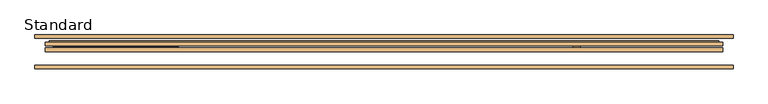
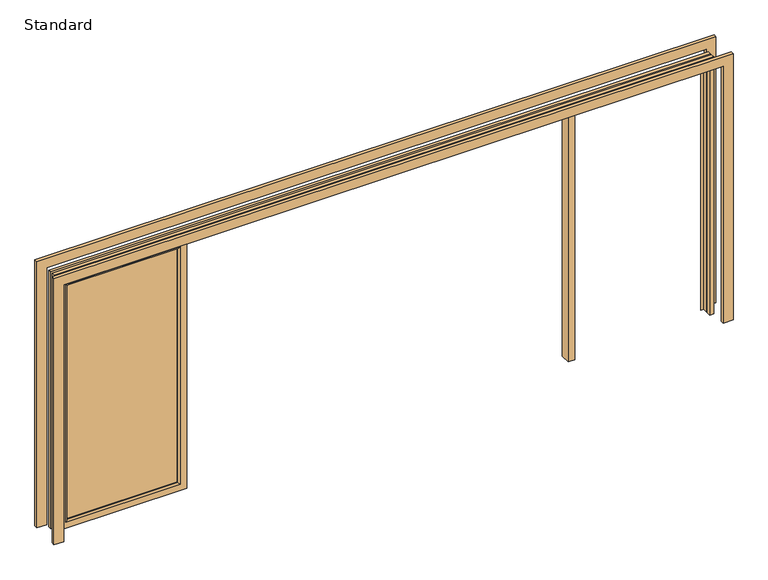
"""IFC4 building model written with IfcOpenShell, lengths in millimetres: door geometry, SMARTS_Visofold1000 : Standard."""

from ifc_helpers import new_model, si_unit, frame, origin, origin_with_axes, place, context, project, spatial, polyline, ellipse_curve, outline, extrude, faceted_brep, source, transform, mapped, element, save
from ifc_brep_helpers import plane_surface, cylinder_surface, advanced_brep


def standard_1215e9c2(model_context):
    return source(origin(), model_context, "Body", "SolidModel", [
        advanced_brep(
        [(-1556.5, 13.3, 60.5), (-1556.5, 13.3, 1939.5), (-1556.5, 17.4, 1939.5), (-1556.5, 17.4, 60.5), (-1496.0, 17.4, 0.0), (-1496.0, 17.4, 2000.0), (-1496.0, 0.0, 2000.0), (-1496.0, 0.0, 0.0), (-2399.5, 13.3, 1939.5), (-2399.5, 17.4, 1939.5), (-2460.0, 17.4, 2000.0), (-2460.0, 0.0, 2000.0), (-2399.5, 13.3, 60.5), (-2399.5, 17.4, 60.5), (-2460.0, 17.4, 0.0), (-2460.0, 0.0, 0.0), (-1543.2, 0.0, 1952.8), (-1543.2, 0.0, 47.2), (-2412.8, 0.0, 47.2), (-2412.8, 0.0, 1952.8), (-1513.8691481, 34.8, 17.8691481), (-1513.8691481, 34.8, 1982.1308519), (-1513.8691481, 17.4, 1982.1308519), (-1513.8691481, 17.4, 17.8691481), (-2442.1308519, 34.8, 1982.1308519), (-2442.1308519, 17.4, 1982.1308519), (-2442.1308519, 34.8, 17.8691481), (-2442.1308519, 17.4, 17.8691481), (-1541.0, 17.4, 45.0), (-1541.0, 17.4, 1955.0), (-1541.0, 34.8, 1955.0), (-1541.0, 34.8, 45.0), (-2415.0, 17.4, 1955.0), (-2415.0, 34.8, 1955.0), (-2415.0, 17.4, 45.0), (-2415.0, 34.8, 45.0)],
        [
            (0, 1),
            (1, 2),
            (2, 3),
            (3, 0),
            (4, 5),
            (5, 6),
            (6, 7),
            (7, 4),
            (1, 8),
            (8, 9),
            (9, 2),
            (5, 10),
            (10, 11),
            (11, 6),
            (8, 12),
            (12, 13),
            (13, 9),
            (10, 14),
            (14, 15),
            (15, 11),
            (12, 0),
            (3, 13),
            (15, 7),
            (16, 17),
            (17, 18),
            (18, 19),
            (19, 16),
            (14, 4),
            (16, 1, ellipse_curve(frame((-1543.2, 13.3, 1952.8), z_axis=(0.7071067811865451, 0.0, -0.70710678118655), x_axis=(-0.7071067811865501, 0.0, -0.7071067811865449)), 18.8090404, 13.3)),
            (0, 17, ellipse_curve(frame((-1543.2, 13.3, 47.2), z_axis=(0.7071067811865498, 0.0, 0.7071067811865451), x_axis=(0.7071067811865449, 0.0, -0.70710678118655)), 18.8090404, 13.3)),
            (19, 8, ellipse_curve(frame((-2412.8, 13.3, 1952.8), z_axis=(0.7071067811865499, 0.0, 0.707106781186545), x_axis=(0.7071067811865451, 0.0, -0.7071067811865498)), 18.8090404, 13.3)),
            (18, 12, ellipse_curve(frame((-2412.8, 13.3, 47.2), z_axis=(-0.7071067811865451, 0.0, 0.7071067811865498), x_axis=(0.7071067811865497, 0.0, 0.7071067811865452)), 18.8090404, 13.3)),
            (20, 21),
            (21, 22),
            (22, 23),
            (23, 20),
            (21, 24),
            (24, 25),
            (25, 22),
            (24, 26),
            (26, 27),
            (27, 25),
            (27, 23),
            (26, 20),
            (28, 29),
            (29, 30),
            (30, 31),
            (31, 28),
            (29, 32),
            (32, 33),
            (33, 30),
            (32, 34),
            (34, 35),
            (35, 33),
            (34, 28),
            (31, 35),
        ],
        [
            plane_surface(frame((-1556.5, 17.4, 60.5), z_axis=(-1.0, 0.0, 0.0), x_axis=(0.0, 0.0, 1.0))),
            plane_surface(frame((-1496.0, 0.0, 0.0), z_axis=(1.0, 0.0, 0.0), x_axis=(0.0, 0.0, 1.0))),
            plane_surface(frame((-1556.5, 17.4, 1939.5), z_axis=(0.0, 0.0, -1.0), x_axis=(-1.0, 0.0, 0.0))),
            plane_surface(frame((-1496.0, 0.0, 2000.0), z_axis=(0.0, 0.0, 1.0), x_axis=(-1.0, 0.0, 0.0))),
            plane_surface(frame((-2399.5, 17.4, 1939.5), z_axis=(1.0, 0.0, 0.0), x_axis=(0.0, 0.0, -1.0))),
            plane_surface(frame((-2460.0, 0.0, 2000.0), z_axis=(-1.0, 0.0, 0.0), x_axis=(0.0, 0.0, -1.0))),
            plane_surface(frame((-2399.5, 17.4, 60.5), z_axis=(0.0, 0.0, 1.0), x_axis=(1.0, 0.0, 0.0))),
            plane_surface(frame((-2412.8, 0.0, 47.2), z_axis=(0.0, -1.0, 0.0), x_axis=(1.0, 0.0, 0.0))),
            plane_surface(frame((-2460.0, 0.0, 0.0), z_axis=(0.0, 0.0, -1.0), x_axis=(1.0, 0.0, 0.0))),
            cylinder_surface(frame((-1543.2, 13.3, 0.0), z_axis=(0.0, 0.0, -1.0), x_axis=(0.0, 1.0, 0.0)), 13.3),
            cylinder_surface(frame((-1496.0, 13.3, 1952.8), z_axis=(1.0, 0.0, 0.0), x_axis=(0.0, 1.0, 0.0)), 13.3),
            cylinder_surface(frame((-2412.8, 13.3, 2000.0), z_axis=(0.0, 0.0, 1.0), x_axis=(0.0, 1.0, 0.0)), 13.3),
            cylinder_surface(frame((-2460.0, 13.3, 47.2), z_axis=(-1.0, 0.0, 0.0), x_axis=(0.0, 1.0, 0.0)), 13.3),
            plane_surface(frame((-1513.8691481, 17.4, 17.8691481), z_axis=(1.0, 0.0, 0.0), x_axis=(0.0, 0.0, 1.0))),
            plane_surface(frame((-1513.8691481, 17.4, 1982.1308519), z_axis=(0.0, 0.0, 1.0), x_axis=(-1.0, 0.0, 0.0))),
            plane_surface(frame((-2442.1308519, 17.4, 1982.1308519), z_axis=(-1.0, 0.0, 0.0), x_axis=(0.0, 0.0, -1.0))),
            plane_surface(frame((-2460.0, 17.4, 0.0), z_axis=(0.0, 1.0, 0.0), x_axis=(1.0, 0.0, 0.0))),
            plane_surface(frame((-2442.1308519, 17.4, 17.8691481), z_axis=(0.0, 0.0, -1.0), x_axis=(1.0, 0.0, 0.0))),
            plane_surface(frame((-1541.0, 34.8, 45.0), z_axis=(-1.0, 0.0, 0.0), x_axis=(0.0, 0.0, 1.0))),
            plane_surface(frame((-1541.0, 34.8, 1955.0), z_axis=(0.0, 0.0, -1.0), x_axis=(-1.0, 0.0, 0.0))),
            plane_surface(frame((-2415.0, 34.8, 1955.0), z_axis=(1.0, 0.0, 0.0), x_axis=(0.0, 0.0, -1.0))),
            plane_surface(frame((-2415.0, 34.8, 45.0), z_axis=(0.0, 0.0, 1.0), x_axis=(1.0, 0.0, 0.0))),
            plane_surface(frame((-2415.0, 17.4, 45.0), z_axis=(0.0, 1.0, 0.0), x_axis=(1.0, 0.0, 0.0))),
            plane_surface(frame((-2442.1308519, 34.8, 17.8691481), z_axis=(0.0, 1.0, 0.0), x_axis=(1.0, 0.0, 0.0))),
        ],
        [
            (0, [[1, 2, 3, 4]]),
            (1, [[5, 6, 7, 8]]),
            (2, [[9, 10, 11, -2]]),
            (3, [[12, 13, 14, -6]]),
            (4, [[15, 16, 17, -10]]),
            (5, [[18, 19, 20, -13]]),
            (6, [[21, -4, 22, -16]]),
            (7, [[-7, -14, -20, 23], [24, 25, 26, 27]]),
            (8, [[28, -8, -23, -19]]),
            (9, [[-24, 29, -1, 30]]),
            (10, [[-27, 31, -9, -29]]),
            (11, [[-26, 32, -15, -31]]),
            (12, [[-25, -30, -21, -32]]),
            (13, [[33, 34, 35, 36]]),
            (14, [[37, 38, 39, -34]]),
            (15, [[40, 41, 42, -38]]),
            (16, [[-5, -28, -18, -12], [-35, -39, -42, 43]]),
            (17, [[44, -36, -43, -41]]),
            (18, [[45, 46, 47, 48]]),
            (19, [[49, 50, 51, -46]]),
            (20, [[52, 53, 54, -50]]),
            (21, [[55, -48, 56, -53]]),
            (22, [[-45, -55, -52, -49], [-3, -11, -17, -22]]),
            (23, [[-33, -44, -40, -37], [-47, -51, -54, -56]]),
        ],
    ),
        extrude(outline(polyline([(-1556.5, 50.1484783), (-1556.5, 21.4), (-2399.5, 21.4), (-2399.5, 50.1484783), (-1556.5, 50.1484783)])), frame((0.0, 0.0, 60.5), z_axis=(0.0, 0.0, 1.0), x_axis=(1.0, 0.0, 0.0)), (0.0, 0.0, 1.0), 1879.0),
        extrude(outline(polyline([(1446.0, 0.0), (1396.0, 0.0), (1396.0, 75.1750992), (1446.0, 75.1750992), (1446.0, 0.0)])), origin_with_axes(), (0.0, 0.0, 1.0), 2000.0),
        extrude(outline(polyline([(2058.6516063, -2500.0), (2058.6516063, 2500.0), (0.0, 2500.0), (0.0, 2575.0), (2133.6516063, 2575.0), (2133.6516063, -2575.0), (0.0, -2575.0), (0.0, -2500.0), (2058.6516063, -2500.0)])), frame((0.0, 100.0, 0.0), z_axis=(0.0, 1.0, 0.0), x_axis=(0.0, 0.0, 1.0)), (0.0, 0.0, 1.0), 25.0),
        extrude(outline(polyline([(2133.6516063, -2575.0), (0.0, -2575.0), (0.0, -2500.0), (2058.6516063, -2500.0), (2058.6516063, 2500.0), (0.0, 2500.0), (0.0, 2575.0), (2133.6516063, 2575.0), (2133.6516063, -2575.0)])), frame((0.0, -125.0, 0.0), z_axis=(0.0, 1.0, 0.0), x_axis=(0.0, 0.0, 1.0)), (0.0, 0.0, 1.0), 25.0),
        extrude(outline(polyline([(0.0, 2468.8), (0.0, 2500.0), (2058.6516063, 2500.0), (2058.6516063, -2500.0), (0.0, -2500.0), (0.0, -2468.8), (2027.4516063, -2468.8), (2027.4516063, 2468.8), (0.0, 2468.8)])), frame((0.0, 0.0, 0.0), z_axis=(0.0, 1.0, 0.0), x_axis=(0.0, 0.0, 1.0)), (0.0, 0.0, 1.0), 29.65),
        faceted_brep([(2500.0, 44.85, 0.0), (2468.8, 44.85, 0.0), (2468.8, 77.4, 0.0), (2448.3, 77.4, 0.0), (2448.3, 81.9, 0.0), (2470.6, 81.9, 0.0), (2470.6, 70.0, 0.0), (2500.0, 70.0, 0.0), (2500.0, 44.85, 2058.6516063), (-2500.0, 44.85, 2058.6516063), (-2500.0, 44.85, 0.0), (-2468.8, 44.85, 0.0), (-2468.8, 44.85, 2027.4516063), (2468.8, 44.85, 2027.4516063), (2468.8, 77.4, 2027.4516063), (-2468.8, 77.4, 2027.4516063), (-2468.8, 77.4, 0.0), (-2448.3, 77.4, 0.0), (-2448.3, 77.4, 2006.9516063), (2448.3, 77.4, 2006.9516063), (2448.3, 81.9, 2006.9516063), (-2448.3, 81.9, 2006.9516063), (-2448.3, 81.9, 0.0), (-2470.6, 81.9, 0.0), (-2470.6, 81.9, 2029.2516063), (2470.6, 81.9, 2029.2516063), (2470.6, 70.0, 2029.2516063), (-2470.6, 70.0, 2029.2516063), (-2470.6, 70.0, 0.0), (-2500.0, 70.0, 0.0), (-2500.0, 70.0, 2058.6516063), (2500.0, 70.0, 2058.6516063)], [[[0, 1, 2, 3, 4, 5, 6, 7]], [[1, 0, 8, 9, 10, 11, 12, 13]], [[2, 1, 13, 14]], [[3, 2, 14, 15, 16, 17, 18, 19]], [[4, 3, 19, 20]], [[5, 4, 20, 21, 22, 23, 24, 25]], [[6, 5, 25, 26]], [[7, 6, 26, 27, 28, 29, 30, 31]], [[0, 7, 31, 8]], [[10, 29, 28, 23, 22, 17, 16, 11]], [[9, 30, 29, 10]], [[27, 24, 23, 28]], [[21, 18, 17, 22]], [[15, 12, 11, 16]], [[8, 31, 30, 9]], [[14, 13, 12, 15]], [[26, 25, 24, 27]], [[20, 19, 18, 21]]]),
    ])


if __name__ == "__main__":
    model = new_model("IFC4")
    model_context = context("Model", 3, world=origin())
    ifc_project = project(units=[si_unit("LENGTHUNIT", "METRE", prefix="MILLI")], contexts=[model_context])
    site = spatial("IfcSite", under=ifc_project)
    building = spatial("IfcBuilding", under=site)
    placement = place(None, origin())
    standard_shape = standard_1215e9c2(model_context)
    element("IfcDoor", 1, ObjectType="SMARTS_Visofold1000 : Standard", at=placement, inside=building, context=model_context, shape_type="MappedRepresentation", body=[
        mapped(standard_shape, transform((0.0, 0.0, 0.0), x_axis=(1.0, 0.0, 0.0), y_axis=(0.0, 1.0, 0.0), z_axis=(0.0, 0.0, 1.0))),
    ])
    save(model, "model.ifc")
